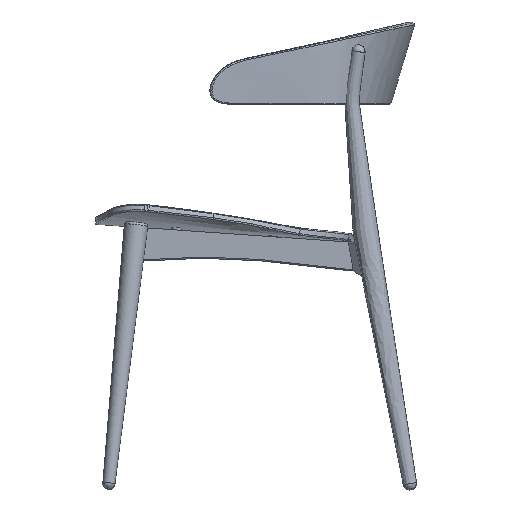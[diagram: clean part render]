
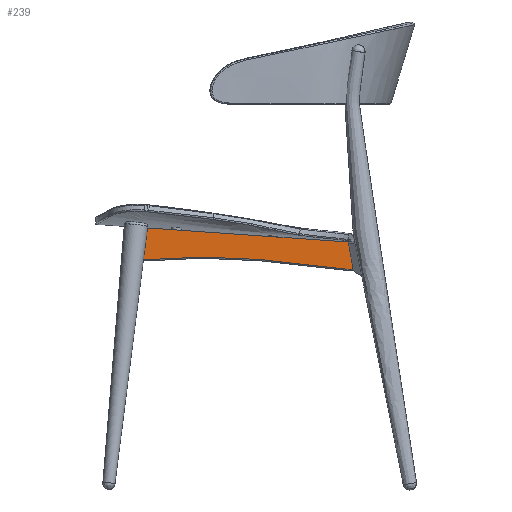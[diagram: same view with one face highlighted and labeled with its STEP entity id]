
A CAD part, left-side view. The second image highlights one B-rep face of the part: STEP entity #239.
In plain terms, the highlighted planar face has unit normal (-1, 0, 0).
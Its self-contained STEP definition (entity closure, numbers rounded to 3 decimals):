
#30=PLANE($,#4223);
#239=ADVANCED_FACE($,(#498),#30,.T.);
#498=FACE_OUTER_BOUND($,#757,.T.);
#757=EDGE_LOOP($,(#1605,#1606,#1607,#1608,#1609,#1610,#1611,#1612));
#1605=ORIENTED_EDGE($,*,*,#2541,.T.);
#1606=ORIENTED_EDGE($,*,*,#2542,.T.);
#1607=ORIENTED_EDGE($,*,*,#2543,.T.);
#1608=ORIENTED_EDGE($,*,*,#2544,.T.);
#1609=ORIENTED_EDGE($,*,*,#2540,.F.);
#1610=ORIENTED_EDGE($,*,*,#2545,.T.);
#1611=ORIENTED_EDGE($,*,*,#2546,.T.);
#1612=ORIENTED_EDGE($,*,*,#2547,.T.);
#2540=EDGE_CURVE($,#3059,#3056,#3945,.T.);
#2541=EDGE_CURVE($,#3060,#3061,#3946,.T.);
#2542=EDGE_CURVE($,#3061,#3062,#3947,.T.);
#2543=EDGE_CURVE($,#3062,#3063,#3580,.T.);
#2544=EDGE_CURVE($,#3063,#3056,#3581,.T.);
#2545=EDGE_CURVE($,#3059,#3064,#3948,.T.);
#2546=EDGE_CURVE($,#3064,#3065,#3949,.T.);
#2547=EDGE_CURVE($,#3065,#3060,#3950,.T.);
#3056=VERTEX_POINT($,#40112);
#3059=VERTEX_POINT($,#40115);
#3060=VERTEX_POINT($,#40116);
#3061=VERTEX_POINT($,#40117);
#3062=VERTEX_POINT($,#40118);
#3063=VERTEX_POINT($,#40119);
#3064=VERTEX_POINT($,#40120);
#3065=VERTEX_POINT($,#40121);
#3580=(
BOUNDED_CURVE()
B_SPLINE_CURVE(2,(#39667,#39668,#39669),.UNSPECIFIED.,.F.,.F.)
B_SPLINE_CURVE_WITH_KNOTS((3,3),(0.,184.043),.UNSPECIFIED.)
CURVE()
GEOMETRIC_REPRESENTATION_ITEM()
RATIONAL_B_SPLINE_CURVE((1.,0.996,1.))
REPRESENTATION_ITEM($)
);
#3581=(
BOUNDED_CURVE()
B_SPLINE_CURVE(2,(#39670,#39671,#39672),.UNSPECIFIED.,.F.,.F.)
B_SPLINE_CURVE_WITH_KNOTS((3,3),(0.,148.894),.UNSPECIFIED.)
CURVE()
GEOMETRIC_REPRESENTATION_ITEM()
RATIONAL_B_SPLINE_CURVE((1.,1.,1.))
REPRESENTATION_ITEM($)
);
#3945=B_SPLINE_CURVE_WITH_KNOTS($,1,(#39661,#39662),.UNSPECIFIED.,.F.,.F.,
(2,2),(-3.493,0.),.UNSPECIFIED.);
#3946=B_SPLINE_CURVE_WITH_KNOTS($,1,(#39663,#39664),.UNSPECIFIED.,.F.,.F.,
(2,2),(-51.207,0.),.UNSPECIFIED.);
#3947=B_SPLINE_CURVE_WITH_KNOTS($,1,(#39665,#39666),.UNSPECIFIED.,.F.,.F.,
(2,2),(0.,3.324),.UNSPECIFIED.);
#3948=B_SPLINE_CURVE_WITH_KNOTS($,3,(#39673,#39674,#39675,#39676),.UNSPECIFIED.,
.F.,.F.,(4,4),(0.,0.),.UNSPECIFIED.);
#3949=B_SPLINE_CURVE_WITH_KNOTS($,1,(#39677,#39678),.UNSPECIFIED.,.F.,.F.,
(2,2),(0.,45.276),.UNSPECIFIED.);
#3950=B_SPLINE_CURVE_WITH_KNOTS($,1,(#39679,#39680),.UNSPECIFIED.,.F.,.F.,
(2,2),(-327.928,0.),.UNSPECIFIED.);
#4223=AXIS2_PLACEMENT_3D($,#39905,#4270,$);
#4270=DIRECTION($,(-1.,0.,0.));
#39661=CARTESIAN_POINT($,(-853.492,-394.846,354.766));
#39662=CARTESIAN_POINT($,(-853.492,-391.361,355.009));
#39663=CARTESIAN_POINT($,(-853.492,-59.831,422.402));
#39664=CARTESIAN_POINT($,(-853.492,-56.259,371.32));
#39665=CARTESIAN_POINT($,(-853.492,-56.259,371.32));
#39666=CARTESIAN_POINT($,(-853.492,-59.575,371.088));
#39667=CARTESIAN_POINT($,(-853.492,-59.575,371.088));
#39668=CARTESIAN_POINT($,(-853.492,-151.468,379.193));
#39669=CARTESIAN_POINT($,(-853.492,-243.389,371.399));
#39670=CARTESIAN_POINT($,(-853.492,-243.389,371.399));
#39671=CARTESIAN_POINT($,(-853.492,-317.586,365.108));
#39672=CARTESIAN_POINT($,(-853.492,-391.361,355.009));
#39673=CARTESIAN_POINT($,(-853.492,-394.846,354.766));
#39674=CARTESIAN_POINT($,(-853.492,-394.841,354.823));
#39675=CARTESIAN_POINT($,(-853.492,-394.833,354.881));
#39676=CARTESIAN_POINT($,(-853.492,-394.823,354.938));
#39677=CARTESIAN_POINT($,(-853.492,-394.823,354.938));
#39678=CARTESIAN_POINT($,(-853.492,-386.961,399.527));
#39679=CARTESIAN_POINT($,(-853.492,-386.961,399.527));
#39680=CARTESIAN_POINT($,(-853.492,-59.831,422.402));
#39905=CARTESIAN_POINT($,(-853.492,-52.873,354.089));
#40112=CARTESIAN_POINT($,(-853.492,-391.361,355.009));
#40115=CARTESIAN_POINT($,(-853.492,-394.846,354.766));
#40116=CARTESIAN_POINT($,(-853.492,-59.831,422.402));
#40117=CARTESIAN_POINT($,(-853.492,-56.259,371.32));
#40118=CARTESIAN_POINT($,(-853.492,-59.575,371.088));
#40119=CARTESIAN_POINT($,(-853.492,-243.389,371.399));
#40120=CARTESIAN_POINT($,(-853.492,-394.823,354.938));
#40121=CARTESIAN_POINT($,(-853.492,-386.961,399.527));
